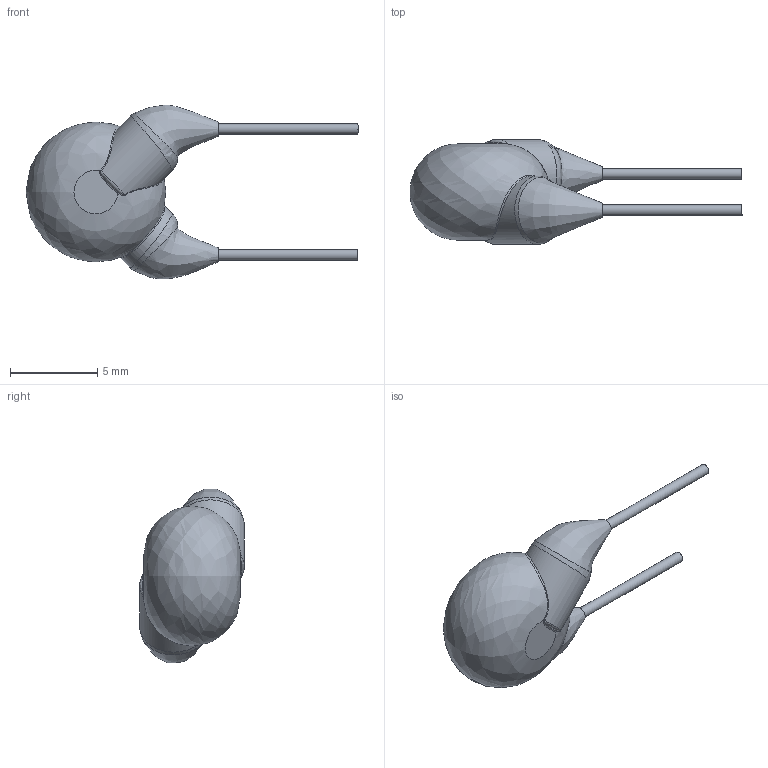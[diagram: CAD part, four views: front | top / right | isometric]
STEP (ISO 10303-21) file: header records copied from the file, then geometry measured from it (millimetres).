
FILE_DESCRIPTION(/* description */ (''),/* implementation_level */ '2;1');
FILE_NAME(/* name */ 'I:\Marketing\M6t1\3D-Models\Zchng-Werk-3\Upload for homepage\Roederstein\VKO\Y5U_300-440\VKO152MCQCD0KR\VKO152MCQCD0KR.stp',/* time_stamp */ '2018-03-19T13:29:02+01:00',/* author */ ('sheinrich'),/* organization */ (''),/* preprocessor_version */ 'ST-DEVELOPER v16.1',/* originating_system */ 'Autodesk Inventor 2016',/* authorisation */ '');
FILE_SCHEMA (('AUTOMOTIVE_DESIGN { 1 0 10303 214 3 1 1 }'));
Length unit declared in the file: centimetre
Products named in the file (1): VKO152MCQCD0KR
Bounding box: 19 x 6 x 9.94 mm (x, y, z)
Volume: 277.8 mm3; surface area: 272.9 mm2
Topology: 1 solids, 1 shells, 25 faces, 57 edges, 36 vertices
Faces by surface type: bspline 13, plane 6, cylinder 4, torus 2
Full cylindrical faces by diameter (mm): 0.6 x2, 3.9 x2
Entity records: 1839 total; most frequent: CARTESIAN_POINT 1319, ORIENTED_EDGE 102, DIRECTION 70, EDGE_CURVE 51, AXIS2_PLACEMENT_3D 35, VERTEX_POINT 34, EDGE_LOOP 31, B_SPLINE_CURVE_WITH_KNOTS 28
